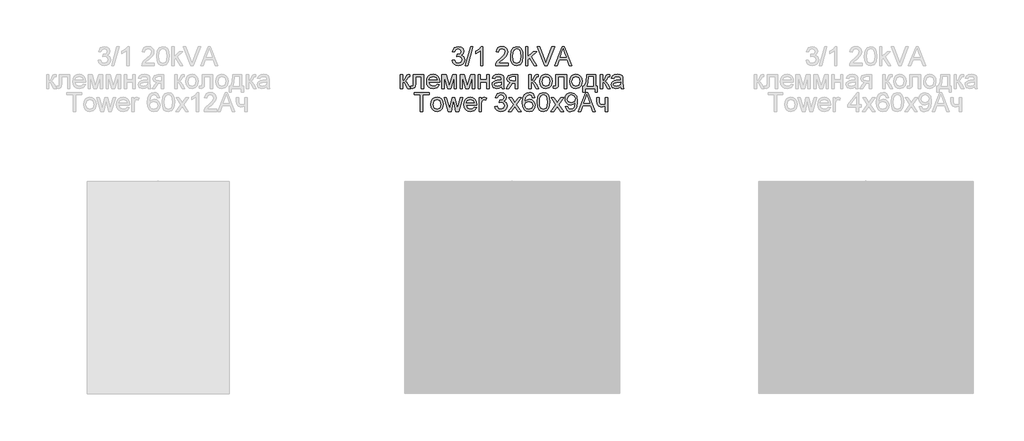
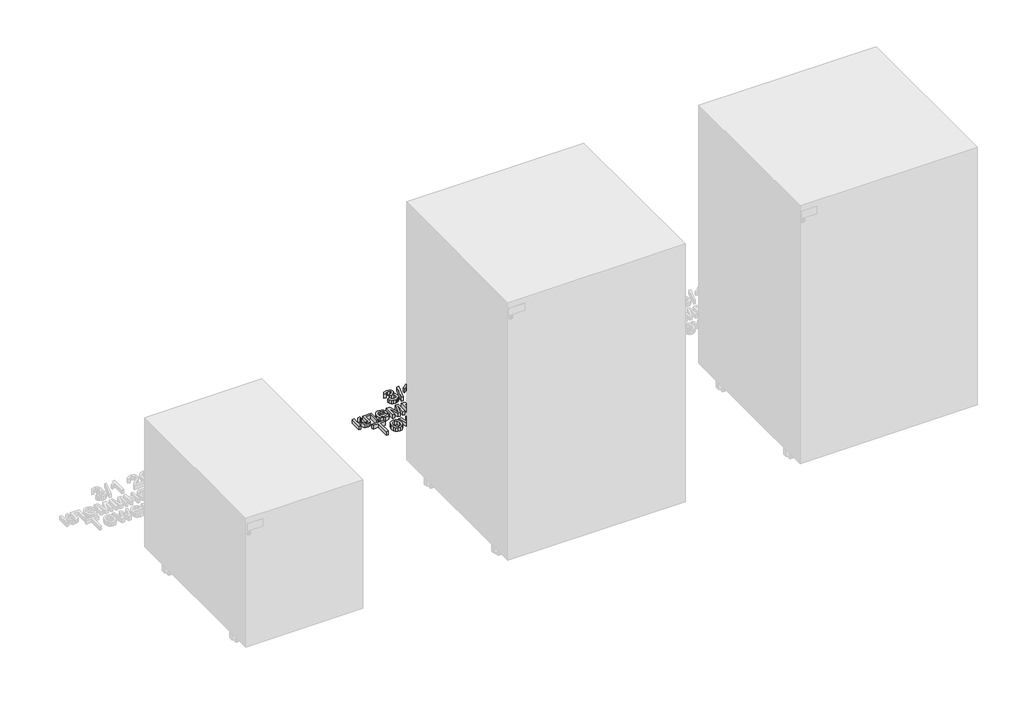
# One storey, part 60 of 74: 1 proxy.
"""IFC4 building model written with IfcOpenShell, lengths in millimetres."""

from ifc_helpers import new_model, si_unit, origin, origin_with_axes, place, context, project, spatial, polyline, outline, extrude, element, save

model = new_model("IFC4")

# Units and contexts
model_context = context("Model", 3, world=origin())
ifc_project = project(units=[si_unit("LENGTHUNIT", "METRE", prefix="MILLI")], contexts=[model_context])

# Site, building, storey
site = spatial("IfcSite", under=ifc_project)
building = spatial("IfcBuilding", under=site)
storey = spatial("IfcBuildingStorey", under=building, Name="Этаж 01", Elevation=0.0)

# Proxy
placement = place(None, origin())
element("IfcBuildingElementProxy", 1, Name="80 мм Arial", ObjectType="80 мм Arial", at=placement, inside=storey, context=model_context, shape_type="SweptSolid", body=[
    extrude(outline(polyline([(16098.3137414, -15105.2863601), (16108.3593724, -15104.0306562), (16113.9021278, -15114.6060373), (16124.2714949, -15117.8433988), (16136.475367, -15113.3895741), (16141.0076732, -15102.3629245), (16136.5146077, -15091.9739369), (16125.0955506, -15087.8634688), (16118.0518367, -15088.9622097), (16119.1701979, -15078.9165786), (16120.7790685, -15079.0343009), (16132.1785053, -15076.150106), (16137.2405615, -15067.2816974), (16133.5715518, -15059.423738), (16124.114532, -15056.3139089), (16114.5397899, -15059.4531685), (16109.6150762, -15068.8709476), (16099.5694452, -15067.6152437), (16107.7903816, -15051.8600842), (16123.7613652, -15046.2682778), (16135.8769456, -15049.0249403), (16144.3529468, -15056.5591635), (16147.2861926, -15066.6930862), (16144.5000996, -15075.9539023), (16136.2595429, -15082.6052088), (16147.2077111, -15089.4723394), (16151.0533042, -15102.5395078), (16149.1305076, -15112.330074), (16143.3621179, -15120.5117696), (16134.6555774, -15126.0447148), (16123.9183282, -15127.8890298), (16114.2062435, -15126.3144949), (16106.2992332, -15121.5908901), (16100.8006236, -15114.3656877), (16098.3137414, -15105.2863601)])), origin_with_axes(), (0.0, 0.0, 1.0), 20.0),
    extrude(outline(polyline([(16154.8204158, -15126.633326), (16177.4230856, -15046.2682778), (16186.487698, -15046.2682778), (16163.8850282, -15126.633326), (16154.8204158, -15126.633326)])), origin_with_axes(), (0.0, 0.0, 1.0), 20.0),
    extrude(outline(polyline([(16228.9069446, -15126.633326), (16218.8613135, -15126.633326), (16218.8613135, -15064.0050951), (16209.3454326, -15070.783934), (16198.7700515, -15075.8558004), (16198.7700515, -15066.3595399), (16213.4951415, -15056.9613812), (16222.4322214, -15046.2682778), (16228.9069446, -15046.2682778), (16228.9069446, -15126.633326)])), origin_with_axes(), (0.0, 0.0, 1.0), 20.0),
    extrude(outline(polyline([(16335.6417741, -15116.5876949), (16335.6417741, -15126.633326), (16282.9022113, -15126.633326), (16283.9813318, -15119.7073343), (16290.0832678, -15109.0436615), (16302.6599269, -15097.3989701), (16320.0043367, -15080.6627918), (16324.3404392, -15069.2829755), (16320.2495914, -15060.0712103), (16309.5662983, -15056.3139089), (16298.4317365, -15059.9829186), (16294.2035461, -15070.1266515), (16284.1579151, -15068.8709476), (16286.5932939, -15059.1539579), (16291.8589116, -15052.0562879), (16299.6800828, -15047.7152804), (16309.7821224, -15046.2682778), (16319.9577384, -15047.8771484), (16327.7641943, -15052.7037602), (16332.7306012, -15059.9142473), (16334.3860702, -15068.6747439), (16332.6006163, -15078.200435), (16326.6654534, -15088.0498623), (16312.2739098, -15101.813554), (16300.71751, -15111.4765878), (16296.1852038, -15116.5876949), (16335.6417741, -15116.5876949)])), origin_with_axes(), (0.0, 0.0, 1.0), 20.0),
    extrude(outline(polyline([(16345.6874051, -15087.0982742), (16348.6402712, -15063.9756645), (16357.410578, -15050.643621), (16372.0571865, -15046.2682778), (16383.7901696, -15048.8581671), (16391.8933837, -15056.323719), (16396.6022732, -15068.2136651), (16398.4269679, -15087.0982742), (16395.5035323, -15110.122782), (16386.7626561, -15123.4842561), (16372.0571865, -15127.8890298), (16361.619148, -15125.9760435), (16353.6925173, -15120.2370843), (16347.6886832, -15106.6450709), (16345.6874051, -15087.0982742)]), holes=[polyline([(16355.7330361, -15087.0786538), (16356.9102585, -15102.8804118), (16360.4419257, -15112.0259582), (16372.0571865, -15117.8433988), (16383.6724474, -15112.0063378), (16387.2041145, -15102.8558863), (16388.3813369, -15087.0786538), (16387.2433553, -15071.6325151), (16383.8294104, -15062.4158449), (16378.5809606, -15057.8393929), (16371.9394643, -15056.3139089), (16360.5988886, -15061.6898911), (16356.9494992, -15071.4804572), (16355.7330361, -15087.0786538)])]), origin_with_axes(), (0.0, 0.0, 1.0), 20.0),
    extrude(outline(polyline([(16409.7283028, -15126.633326), (16409.7283028, -15046.2682778), (16419.7739338, -15046.2682778), (16419.7739338, -15089.452719), (16442.2981221, -15067.6152437), (16456.1893463, -15067.6152437), (16433.3904728, -15089.7274042), (16457.4450501, -15126.633326), (16445.712067, -15126.633326), (16426.1897958, -15096.712257), (16419.7739338, -15102.9319153), (16419.7739338, -15126.633326), (16409.7283028, -15126.633326)])), origin_with_axes(), (0.0, 0.0, 1.0), 20.0),
    extrude(outline(polyline([(16532.2182919, -15126.633326), (16564.2976019, -15046.2682778), (16572.8520846, -15046.2682778), (16604.9313946, -15126.633326), (16594.3167727, -15126.633326), (16585.1148177, -15101.5192484), (16552.0152484, -15101.5192484), (16542.8329138, -15126.633326), (16532.2182919, -15126.633326)]), holes=[polyline([(16555.7038785, -15091.4736174), (16581.445808, -15091.4736174), (16574.2058903, -15071.7159017), (16568.5748432, -15056.3139089), (16563.5716481, -15069.9893089), (16555.7038785, -15091.4736174)])]), origin_with_axes(), (0.0, 0.0, 1.0), 20.0),
    extrude(outline(polyline([(16491.2313326, -15126.633326), (16459.2501245, -15046.2682778), (16470.0020889, -15046.2682778), (16491.4079159, -15104.1679988), (16495.7440184, -15117.2155469), (16500.0212597, -15104.1679988), (16521.4859479, -15046.2682778), (16532.2379123, -15046.2682778), (16501.6105099, -15126.633326), (16491.2313326, -15126.633326)])), origin_with_axes(), (0.0, 0.0, 1.0), 20.0),
    extrude(outline(polyline([(15879.1934148, -15165.195098), (15889.2390459, -15165.195098), (15889.2390459, -15190.3091756), (15895.9688338, -15188.5041012), (15901.4821587, -15177.9875813), (15906.0635158, -15168.9131587), (15910.1053126, -15165.9602926), (15917.4531423, -15165.195098), (15919.3759389, -15165.195098), (15919.3759389, -15175.2995902), (15916.6683274, -15175.240729), (15911.7632341, -15176.3002292), (15908.3100485, -15182.9122949), (15904.2584414, -15190.0639209), (15898.5783434, -15193.5661575), (15904.9157239, -15197.4755168), (15911.1353822, -15205.7111684), (15921.8873467, -15224.2131802), (15910.4682895, -15224.2131802), (15899.9321492, -15206.1035759), (15894.6346485, -15198.4418202), (15889.2390459, -15196.5876949), (15889.2390459, -15224.2131802), (15879.1934148, -15224.2131802), (15879.1934148, -15165.195098)])), origin_with_axes(), (0.0, 0.0, 1.0), 20.0),
    extrude(outline(polyline([(15933.1886815, -15165.195098), (15978.3940211, -15165.195098), (15978.3940211, -15224.1543191), (15968.3483901, -15224.1543191), (15968.3483901, -15175.240729), (15943.2343126, -15175.240729), (15943.2343126, -15203.3959644), (15942.5574097, -15216.3846514), (15938.839349, -15221.8685457), (15930.0494219, -15224.2131802), (15921.8873467, -15223.7030505), (15921.8873467, -15214.1675492), (15926.3804121, -15214.1675492), (15930.9225285, -15213.5495075), (15932.737413, -15211.5874702), (15933.1886815, -15202.8269736), (15933.1886815, -15165.195098)])), origin_with_axes(), (0.0, 0.0, 1.0), 20.0),
    extrude(outline(polyline([(16034.7829733, -15206.633326), (16044.6324006, -15207.8890298), (16035.4206355, -15220.8580964), (16018.2626192, -15225.4688841), (16006.4756801, -15223.4798688), (15997.4061626, -15217.5128228), (15991.6230577, -15207.9552486), (15989.695356, -15195.1946485), (15991.642678, -15182.0048527), (15997.4846441, -15172.1407101), (16006.4315342, -15165.9897231), (16017.6936284, -15163.9393941), (16028.6050084, -15165.984818), (16037.3238116, -15172.1210897), (16043.0406979, -15181.9656119), (16044.9463266, -15195.1357873), (16044.8874655, -15197.8433988), (15999.740987, -15197.8433988), (16005.5191869, -15210.8909469), (16018.4588229, -15215.4232531), (16028.3082502, -15213.3238732), (16034.7829733, -15206.633326)]), holes=[polyline([(15999.740987, -15187.7977678), (16034.9006956, -15187.7977678), (16030.8785191, -15178.6939147), (16017.6543876, -15173.9850252), (16005.2837424, -15177.7423266), (15999.740987, -15187.7977678)])]), origin_with_axes(), (0.0, 0.0, 1.0), 20.0),
    extrude(outline(polyline([(16054.9919576, -15165.195098), (16072.2775063, -15165.195098), (16085.5997396, -15212.4409564), (16099.9618527, -15165.195098), (16116.5214476, -15165.195098), (16116.5214476, -15224.2131802), (16106.4758166, -15224.2131802), (16106.4758166, -15176.6926366), (16092.035222, -15224.2131802), (16078.8503313, -15224.2131802), (16065.0375886, -15174.4166734), (16065.0375886, -15224.2131802), (16054.9919576, -15224.2131802), (16054.9919576, -15165.195098)])), origin_with_axes(), (0.0, 0.0, 1.0), 20.0),
    extrude(outline(polyline([(16131.5898941, -15165.195098), (16148.8754428, -15165.195098), (16162.1976761, -15212.4409564), (16176.5597892, -15165.195098), (16193.1193841, -15165.195098), (16193.1193841, -15224.2131802), (16183.073753, -15224.2131802), (16183.073753, -15176.6926366), (16168.6331585, -15224.2131802), (16155.4482678, -15224.2131802), (16141.6355251, -15174.4166734), (16141.6355251, -15224.2131802), (16131.5898941, -15224.2131802), (16131.5898941, -15165.195098)])), origin_with_axes(), (0.0, 0.0, 1.0), 20.0),
    extrude(outline(polyline([(16208.1878306, -15165.195098), (16218.2334616, -15165.195098), (16218.2334616, -15187.7977678), (16244.603243, -15187.7977678), (16244.603243, -15165.195098), (16254.648874, -15165.195098), (16254.648874, -15224.2131802), (16244.603243, -15224.2131802), (16244.603243, -15197.8433988), (16218.2334616, -15197.8433988), (16218.2334616, -15224.2131802), (16208.1878306, -15224.2131802), (16208.1878306, -15165.195098)])), origin_with_axes(), (0.0, 0.0, 1.0), 20.0),
    extrude(outline(polyline([(16307.3884369, -15216.678957), (16297.6469216, -15223.4872264), (16286.885147, -15225.4688841), (16272.2973996, -15220.7011335), (16267.2059128, -15208.5168818), (16269.1287094, -15200.5706307), (16274.1809554, -15194.802241), (16281.2148592, -15191.5060183), (16289.9066844, -15189.9952496), (16307.3295757, -15186.5420639), (16307.3884369, -15184.3053414), (16304.6219643, -15176.8888404), (16293.5168331, -15173.9850252), (16283.3534798, -15175.9176319), (16278.5072477, -15182.7749523), (16268.4616167, -15181.5192484), (16272.8075293, -15171.7090619), (16281.5582157, -15165.9602926), (16294.8117777, -15163.9393941), (16306.9862192, -15165.7248481), (16313.86316, -15170.2081033), (16316.9435585, -15177.026183), (16317.4340679, -15185.8161101), (16317.4340679, -15198.3142878), (16317.9441976, -15215.7666096), (16319.9454756, -15224.2131802), (16309.8998446, -15224.2131802), (16307.3884369, -15216.678957)]), holes=[polyline([(16307.3884369, -15196.5876949), (16291.1820087, -15199.6680935), (16282.5392344, -15201.2965845), (16278.6249699, -15203.9453348), (16277.2515438, -15207.8105483), (16280.2436507, -15213.2453917), (16289.0237677, -15215.4232531), (16299.1871209, -15213.0197574), (16305.7403255, -15207.2023168), (16307.3295757, -15199.432649), (16307.3884369, -15196.5876949)])]), origin_with_axes(), (0.0, 0.0, 1.0), 20.0),
    extrude(outline(polyline([(16376.4521501, -15165.195098), (16376.4521501, -15224.2131802), (16366.4065191, -15224.2131802), (16366.4065191, -15201.6105105), (16360.932435, -15201.6105105), (16353.4766932, -15202.8858347), (16346.47222, -15211.4599377), (16338.4671078, -15224.2131802), (16326.8518469, -15224.2131802), (16336.9367187, -15208.0852336), (16345.4912014, -15199.7269546), (16333.797459, -15193.6250186), (16329.9911066, -15182.2452022), (16335.1905055, -15169.9236079), (16350.2393317, -15165.195098), (16376.4521501, -15165.195098)]), holes=[polyline([(16366.4065191, -15175.240729), (16353.1627672, -15175.240729), (16342.4402334, -15177.5657432), (16340.0367377, -15183.0103968), (16343.578215, -15189.4949301), (16356.1254436, -15191.5648794), (16366.4065191, -15191.5648794), (16366.4065191, -15175.240729)])]), origin_with_axes(), (0.0, 0.0, 1.0), 20.0),
    extrude(outline(polyline([(16422.9131935, -15165.195098), (16432.9588245, -15165.195098), (16432.9588245, -15190.3091756), (16439.6886125, -15188.5041012), (16445.2019373, -15177.9875813), (16449.7832945, -15168.9131587), (16453.8250913, -15165.9602926), (16461.172921, -15165.195098), (16463.0957176, -15165.195098), (16463.0957176, -15175.2995902), (16460.3881061, -15175.240729), (16455.4830128, -15176.3002292), (16452.0298272, -15182.9122949), (16447.9782201, -15190.0639209), (16442.2981221, -15193.5661575), (16448.6355026, -15197.4755168), (16454.8551609, -15205.7111684), (16465.6071253, -15224.2131802), (16454.1880682, -15224.2131802), (16443.6519279, -15206.1035759), (16438.3544271, -15198.4418202), (16432.9588245, -15196.5876949), (16432.9588245, -15224.2131802), (16422.9131935, -15224.2131802), (16422.9131935, -15165.195098)])), origin_with_axes(), (0.0, 0.0, 1.0), 20.0),
    extrude(outline(polyline([(16469.374237, -15194.7041391), (16471.5471933, -15180.4744636), (16478.0660622, -15170.4729784), (16486.1202254, -15165.5727902), (16495.7636388, -15163.9393941), (16506.3169469, -15165.9284095), (16514.7463497, -15171.8954554), (16520.2719373, -15181.3696431), (16522.1137998, -15193.8800835), (16518.8568179, -15211.7542433), (16509.3703675, -15221.8685457), (16495.7636388, -15225.4688841), (16485.0827982, -15223.4872264), (16476.6632056, -15217.5422534), (16471.1964791, -15207.8694095), (16469.374237, -15194.7041391)]), holes=[polyline([(16479.419868, -15194.6845188), (16484.0698964, -15210.2532848), (16495.7636388, -15215.4232531), (16507.4181404, -15210.2238542), (16512.0681688, -15194.3705928), (16507.3887098, -15179.1549935), (16495.7636388, -15173.9850252), (16484.0698964, -15179.1353731), (16479.419868, -15194.6845188)])]), origin_with_axes(), (0.0, 0.0, 1.0), 20.0),
    extrude(outline(polyline([(16538.4379502, -15165.195098), (16583.6432898, -15165.195098), (16583.6432898, -15224.1543191), (16573.5976588, -15224.1543191), (16573.5976588, -15175.240729), (16548.4835812, -15175.240729), (16548.4835812, -15203.3959644), (16547.8066783, -15216.3846514), (16544.0886176, -15221.8685457), (16535.2986905, -15224.2131802), (16527.1366153, -15223.7030505), (16527.1366153, -15214.1675492), (16531.6296807, -15214.1675492), (16536.1717971, -15213.5495075), (16537.9866816, -15211.5874702), (16538.4379502, -15202.8269736), (16538.4379502, -15165.195098)])), origin_with_axes(), (0.0, 0.0, 1.0), 20.0),
    extrude(outline(polyline([(16596.2003285, -15194.7041391), (16598.3732849, -15180.4744636), (16604.8921538, -15170.4729784), (16612.946317, -15165.5727902), (16622.5897303, -15163.9393941), (16633.1430385, -15165.9284095), (16641.5724413, -15171.8954554), (16647.0980288, -15181.3696431), (16648.9398914, -15193.8800835), (16645.6829094, -15211.7542433), (16636.1964591, -15221.8685457), (16622.5897303, -15225.4688841), (16611.9088897, -15223.4872264), (16603.4892971, -15217.5422534), (16598.0225707, -15207.8694095), (16596.2003285, -15194.7041391)]), holes=[polyline([(16606.2459596, -15194.6845188), (16610.895988, -15210.2532848), (16622.5897303, -15215.4232531), (16634.2442319, -15210.2238542), (16638.8942603, -15194.3705928), (16634.2148014, -15179.1549935), (16622.5897303, -15173.9850252), (16610.895988, -15179.1353731), (16606.2459596, -15194.6845188)])]), origin_with_axes(), (0.0, 0.0, 1.0), 20.0),
    extrude(outline(polyline([(16669.0311534, -15165.195098), (16706.7022697, -15165.195098), (16706.7022697, -15214.1675492), (16714.236493, -15214.1675492), (16714.236493, -15240.5373306), (16704.1908619, -15240.5373306), (16704.1908619, -15224.2131802), (16662.752634, -15224.2131802), (16662.752634, -15240.5373306), (16652.707003, -15240.5373306), (16652.707003, -15214.1675492), (16658.9855224, -15214.1675492), (16666.7453799, -15195.0082549), (16669.0311534, -15165.195098)]), holes=[polyline([(16677.8210805, -15175.240729), (16675.4666358, -15198.1278942), (16670.2868573, -15214.1675492), (16696.6566387, -15214.1675492), (16696.6566387, -15175.240729), (16677.8210805, -15175.240729)])]), origin_with_axes(), (0.0, 0.0, 1.0), 20.0),
    extrude(outline(polyline([(16725.5378279, -15165.195098), (16735.5834589, -15165.195098), (16735.5834589, -15190.3091756), (16742.3132468, -15188.5041012), (16747.8265717, -15177.9875813), (16752.4079288, -15168.9131587), (16756.4497256, -15165.9602926), (16763.7975554, -15165.195098), (16765.7203519, -15165.195098), (16765.7203519, -15175.2995902), (16763.0127404, -15175.240729), (16758.1076472, -15176.3002292), (16754.6544615, -15182.9122949), (16750.6028545, -15190.0639209), (16744.9227565, -15193.5661575), (16751.260137, -15197.4755168), (16757.4797952, -15205.7111684), (16768.2317597, -15224.2131802), (16756.8127025, -15224.2131802), (16746.2765622, -15206.1035759), (16740.9790615, -15198.4418202), (16735.5834589, -15196.5876949), (16735.5834589, -15224.2131802), (16725.5378279, -15224.2131802), (16725.5378279, -15165.195098)])), origin_with_axes(), (0.0, 0.0, 1.0), 20.0),
    extrude(outline(polyline([(16812.1813954, -15216.678957), (16802.4398801, -15223.4872264), (16791.6781055, -15225.4688841), (16777.0903581, -15220.7011335), (16771.9988713, -15208.5168818), (16773.9216679, -15200.5706307), (16778.9739139, -15194.802241), (16786.0078177, -15191.5060183), (16794.6996429, -15189.9952496), (16812.1225342, -15186.5420639), (16812.1813954, -15184.3053414), (16809.4149228, -15176.8888404), (16798.3097916, -15173.9850252), (16788.1464383, -15175.9176319), (16783.3002062, -15182.7749523), (16773.2545752, -15181.5192484), (16777.6004878, -15171.7090619), (16786.3511742, -15165.9602926), (16799.6047362, -15163.9393941), (16811.7791777, -15165.7248481), (16818.6561185, -15170.2081033), (16821.736517, -15177.026183), (16822.2270264, -15185.8161101), (16822.2270264, -15198.3142878), (16822.7371561, -15215.7666096), (16824.7384341, -15224.2131802), (16814.6928031, -15224.2131802), (16812.1813954, -15216.678957)]), holes=[polyline([(16812.1813954, -15196.5876949), (16795.9749672, -15199.6680935), (16787.3321929, -15201.2965845), (16783.4179284, -15203.9453348), (16782.0445023, -15207.8105483), (16785.0366092, -15213.2453917), (16793.8167262, -15215.4232531), (16803.9800794, -15213.0197574), (16810.533284, -15207.2023168), (16812.1225342, -15199.432649), (16812.1813954, -15196.5876949)])]), origin_with_axes(), (0.0, 0.0, 1.0), 20.0),
    extrude(outline(polyline([(15963.9534265, -15321.7930345), (15963.9534265, -15251.4736174), (15937.5836451, -15251.4736174), (15937.5836451, -15241.4279864), (16000.368839, -15241.4279864), (16000.368839, -15251.4736174), (15973.9990575, -15251.4736174), (15973.9990575, -15321.7930345), (15963.9534265, -15321.7930345)])), origin_with_axes(), (0.0, 0.0, 1.0), 20.0),
    extrude(outline(polyline([(16007.9030622, -15292.2839934), (16010.0760185, -15278.0543178), (16016.5948875, -15268.0528327), (16024.6490506, -15263.1526445), (16034.292464, -15261.5192484), (16044.8457722, -15263.5082637), (16053.275175, -15269.4753097), (16058.8007625, -15278.9494974), (16060.6426251, -15291.4599377), (16057.3856431, -15309.3340976), (16047.8991927, -15319.4483999), (16034.292464, -15323.0487384), (16023.6116234, -15321.0670807), (16015.1920308, -15315.1221077), (16009.7253044, -15305.4492637), (16007.9030622, -15292.2839934)]), holes=[polyline([(16017.9486932, -15292.264373), (16022.5987217, -15307.8331391), (16034.292464, -15313.0031074), (16045.9469656, -15307.8037085), (16050.596994, -15291.9504471), (16045.9175351, -15276.7348477), (16034.292464, -15271.5648794), (16022.5987217, -15276.7152274), (16017.9486932, -15292.264373)])]), origin_with_axes(), (0.0, 0.0, 1.0), 20.0),
    extrude(outline(polyline([(16081.7345261, -15321.7930345), (16063.7818847, -15262.7749523), (16074.2199232, -15262.7749523), (16084.4028968, -15297.208707), (16087.4440547, -15309.510681), (16089.9358421, -15297.6599756), (16098.0390561, -15262.7749523), (16110.0074837, -15262.7749523), (16118.071457, -15297.5618738), (16120.2885592, -15308.2942178), (16123.4670596, -15296.9732626), (16133.6696536, -15262.7749523), (16144.1469329, -15262.7749523), (16126.0569489, -15321.7930345), (16113.911938, -15321.7930345), (16106.2011313, -15287.1826964), (16103.9644088, -15276.3914912), (16094.0168797, -15321.7930345), (16081.7345261, -15321.7930345)])), origin_with_axes(), (0.0, 0.0, 1.0), 20.0),
    extrude(outline(polyline([(16192.3738099, -15304.2131802), (16202.2232372, -15305.4688841), (16193.011472, -15318.4379507), (16175.8534558, -15323.0487384), (16164.0665166, -15321.0597231), (16154.9969992, -15315.0926771), (16149.2138942, -15305.5351029), (16147.2861926, -15292.7745027), (16149.2335146, -15279.5847069), (16155.0754807, -15269.7205644), (16164.0223708, -15263.5695774), (16175.2844649, -15261.5192484), (16186.1958449, -15263.5646723), (16194.9146482, -15269.700944), (16200.6315344, -15279.5454662), (16202.5371631, -15292.7156416), (16202.478302, -15295.4232531), (16157.3318236, -15295.4232531), (16163.1100234, -15308.4708012), (16176.0496595, -15313.0031074), (16185.8990868, -15310.9037275), (16192.3738099, -15304.2131802)]), holes=[polyline([(16157.3318236, -15285.3776221), (16192.4915321, -15285.3776221), (16188.4693556, -15276.273769), (16175.2452242, -15271.5648794), (16162.874579, -15275.3221809), (16157.3318236, -15285.3776221)])]), origin_with_axes(), (0.0, 0.0, 1.0), 20.0),
    extrude(outline(polyline([(16212.5827942, -15321.7930345), (16212.5827942, -15262.7749523), (16221.3727213, -15262.7749523), (16221.3727213, -15271.5060183), (16227.6119999, -15263.4616654), (16233.8905193, -15261.5192484), (16243.9753911, -15264.6192674), (16240.6203073, -15273.6250186), (16233.556973, -15271.5648794), (16227.876875, -15273.5465371), (16224.2569161, -15279.0402416), (16222.6284252, -15290.7732247), (16222.6284252, -15321.7930345), (16212.5827942, -15321.7930345)])), origin_with_axes(), (0.0, 0.0, 1.0), 20.0),
    extrude(outline(polyline([(16279.1350996, -15300.4460686), (16289.1807306, -15299.1903647), (16294.723486, -15309.7657458), (16305.0928532, -15313.0031074), (16317.2967253, -15308.5492827), (16321.8290314, -15297.522633), (16317.335966, -15287.1336455), (16305.9169089, -15283.0231773), (16298.8731949, -15284.1219182), (16299.9915562, -15274.0762872), (16301.6004268, -15274.1940094), (16312.9998636, -15271.3098146), (16318.0619198, -15262.441406), (16314.39291, -15254.5834465), (16304.9358902, -15251.4736174), (16295.3611482, -15254.6128771), (16290.4364345, -15264.0306562), (16280.3908035, -15262.7749523), (16288.6117398, -15247.0197927), (16304.5827235, -15241.4279864), (16316.6983039, -15244.1846488), (16325.174305, -15251.7188721), (16328.1075508, -15261.8527948), (16325.3214578, -15271.1136109), (16317.0809012, -15277.7649173), (16328.0290693, -15284.6320479), (16331.8746625, -15297.6992164), (16329.9518659, -15307.4897825), (16324.1834762, -15315.6714781), (16315.4769357, -15321.2044233), (16304.7396865, -15323.0487384), (16295.0276018, -15321.4742035), (16287.1205915, -15316.7505986), (16281.6219819, -15309.5253962), (16279.1350996, -15300.4460686)])), origin_with_axes(), (0.0, 0.0, 1.0), 20.0),
    extrude(outline(polyline([(16336.897478, -15321.7930345), (16358.3621661, -15292.1270304), (16338.1531818, -15262.7749523), (16350.2393317, -15262.7749523), (16359.9906571, -15276.9016209), (16364.5425836, -15283.5725478), (16368.4862786, -15278.118084), (16379.5914098, -15262.7749523), (16391.6775596, -15262.7749523), (16370.4483159, -15292.1270304), (16390.8927447, -15321.7930345), (16378.8065949, -15321.7930345), (16366.5046209, -15303.9581154), (16364.248278, -15300.7011335), (16348.9836278, -15321.7930345), (16336.897478, -15321.7930345)])), origin_with_axes(), (0.0, 0.0, 1.0), 20.0),
    extrude(outline(polyline([(16448.655123, -15262.7749523), (16438.609492, -15264.0306562), (16434.8031396, -15255.6527569), (16424.7378882, -15251.4736174), (16415.6732759, -15253.9065437), (16408.8159555, -15263.0398273), (16405.9611912, -15280.9434178), (16414.8197896, -15272.9284954), (16425.7973884, -15270.3091756), (16435.0778248, -15272.0995346), (16442.8671129, -15277.4706117), (16448.1498984, -15285.6768328), (16449.9108269, -15295.9726235), (16446.5949838, -15309.8344171), (16437.4715103, -15319.6446037), (16424.30624, -15323.0487384), (16412.9092558, -15320.7923955), (16403.8323807, -15314.0233668), (16397.8947653, -15302.0745596), (16395.9155602, -15284.2788812), (16398.113042, -15264.2710057), (16404.7054873, -15250.5907006), (16413.7063335, -15243.7186649), (16425.3657402, -15241.4279864), (16434.1801928, -15242.8455583), (16441.238622, -15247.0982742), (16448.655123, -15262.7749523)]), holes=[polyline([(16405.9611912, -15295.8156606), (16408.2862054, -15304.517296), (16414.4666229, -15310.8350561), (16423.5214251, -15313.0031074), (16435.3623202, -15308.5100419), (16439.8651959, -15296.3061699), (16435.4211814, -15284.6222377), (16423.1093973, -15280.3548066), (16410.9545761, -15284.6222377), (16405.9611912, -15295.8156606)])]), origin_with_axes(), (0.0, 0.0, 1.0), 20.0),
    extrude(outline(polyline([(16458.700754, -15282.2579828), (16461.6536202, -15259.1353731), (16470.4239269, -15245.8033296), (16485.0705354, -15241.4279864), (16496.8035185, -15244.0178756), (16504.9067326, -15251.4834276), (16509.6156222, -15263.3733737), (16511.4403168, -15282.2579828), (16508.5168813, -15305.2824906), (16499.7760051, -15318.6439646), (16485.0705354, -15323.0487384), (16474.632497, -15321.135752), (16466.7058662, -15315.3967929), (16460.7020321, -15301.8047794), (16458.700754, -15282.2579828)]), holes=[polyline([(16468.746385, -15282.2383624), (16469.9236074, -15298.0401204), (16473.4552746, -15307.1856668), (16485.0705354, -15313.0031074), (16496.6857963, -15307.1660464), (16500.2174634, -15298.0155949), (16501.3946858, -15282.2383624), (16500.2567042, -15266.7922237), (16496.8427593, -15257.5755534), (16491.5943095, -15252.9991014), (16484.9528132, -15251.4736174), (16473.6122376, -15256.8495996), (16469.9628482, -15266.6401658), (16468.746385, -15282.2383624)])]), origin_with_axes(), (0.0, 0.0, 1.0), 20.0),
    extrude(outline(polyline([(16516.4631324, -15321.7930345), (16537.9278205, -15292.1270304), (16517.7188362, -15262.7749523), (16529.804986, -15262.7749523), (16539.5563115, -15276.9016209), (16544.108238, -15283.5725478), (16548.051933, -15278.118084), (16559.1570642, -15262.7749523), (16571.243214, -15262.7749523), (16550.0139703, -15292.1270304), (16570.4583991, -15321.7930345), (16558.3722492, -15321.7930345), (16546.0702753, -15303.9581154), (16543.8139324, -15300.7011335), (16528.5492822, -15321.7930345), (16516.4631324, -15321.7930345)])), origin_with_axes(), (0.0, 0.0, 1.0), 20.0),
    extrude(outline(polyline([(16577.9926223, -15301.7017725), (16588.0382533, -15300.4460686), (16592.5509391, -15310.0306209), (16601.1054218, -15313.0031074), (16609.2380664, -15311.090121), (16614.7513913, -15305.9790138), (16618.0378038, -15297.2479478), (16619.4897114, -15285.5934462), (16619.4308503, -15283.6314089), (16611.3963075, -15291.2441136), (16600.379468, -15294.1675492), (16591.2192063, -15292.3820953), (16583.5942388, -15287.0257334), (16578.4512485, -15278.7508411), (16576.7369184, -15268.2097956), (16578.5346351, -15257.3204886), (16583.9277852, -15248.7856263), (16592.0285467, -15243.2673964), (16601.9490978, -15241.4279864), (16616.26216, -15245.6267462), (16626.1115873, -15257.5951738), (16629.4764813, -15280.0801214), (16626.1213975, -15304.4780553), (16616.1444378, -15318.3006081), (16600.6345329, -15323.0487384), (16592.0457145, -15321.6483343), (16585.1932992, -15317.4471219), (16577.9926223, -15301.7017725)]), holes=[polyline([(16619.4308503, -15267.9743512), (16615.0947478, -15255.9274421), (16603.5775888, -15251.4736174), (16591.491439, -15256.2707986), (16586.7825495, -15268.700305), (16591.2363741, -15279.8348667), (16603.3029036, -15284.1219182), (16614.8887339, -15279.8348667), (16619.4308503, -15267.9743512)])]), origin_with_axes(), (0.0, 0.0, 1.0), 20.0),
    extrude(outline(polyline([(16632.6746021, -15321.7930345), (16664.7539121, -15241.4279864), (16673.3083947, -15241.4279864), (16705.3877047, -15321.7930345), (16694.7730829, -15321.7930345), (16685.5711279, -15296.678957), (16652.4715585, -15296.678957), (16643.2892239, -15321.7930345), (16632.6746021, -15321.7930345)]), holes=[polyline([(16656.1601887, -15286.633326), (16681.9021181, -15286.633326), (16674.6622005, -15266.8756103), (16669.0311534, -15251.4736174), (16664.0279583, -15265.1490174), (16656.1601887, -15286.633326)])]), origin_with_axes(), (0.0, 0.0, 1.0), 20.0),
    extrude(outline(polyline([(16711.0972333, -15262.7749523), (16721.1428643, -15262.7749523), (16721.1428643, -15274.0959076), (16721.9571098, -15284.7105294), (16725.8713742, -15290.4592987), (16733.6410419, -15292.9118453), (16747.5126457, -15289.8706875), (16747.5126457, -15262.7749523), (16757.5582767, -15262.7749523), (16757.5582767, -15321.7930345), (16747.5126457, -15321.7930345), (16747.5126457, -15299.5042907), (16730.9530508, -15302.9574764), (16719.5634243, -15299.3571379), (16712.8630668, -15290.5377802), (16711.0972333, -15279.059862), (16711.0972333, -15262.7749523)])), origin_with_axes(), (0.0, 0.0, 1.0), 20.0),
])

save(model, "model.ifc")
